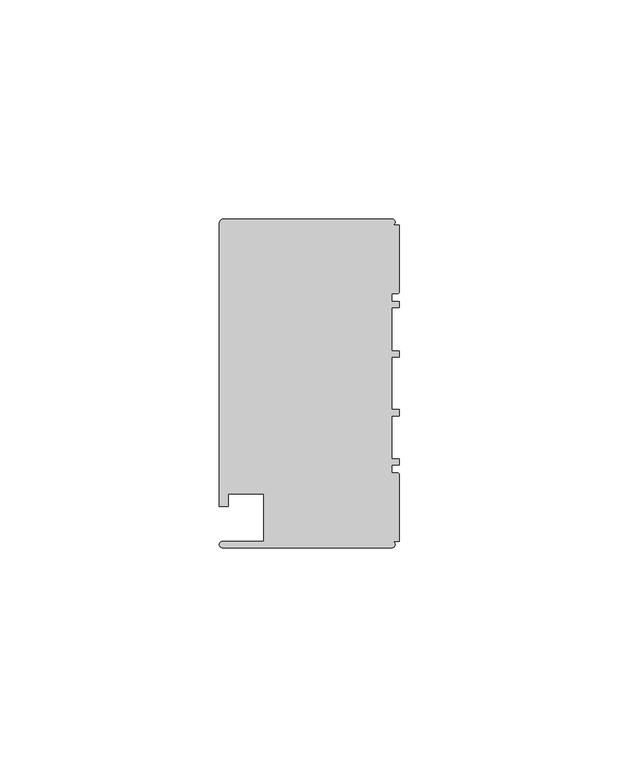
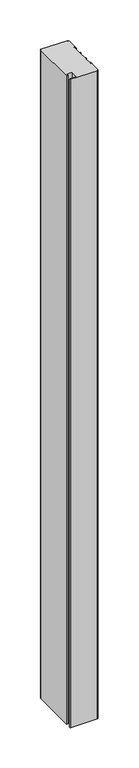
"""IFC4 building model written with IfcOpenShell, lengths in millimetres: member geometry, Прямоугольный импост : 1-AMG-1-Профиль 40Х75 Верх П."""

import ifcopenshell
import ifcopenshell.guid

model = None  # the IFC model being written
_history = None  # IfcOwnerHistory: only IFC2X3 demands one
_inside = {}  # id of a spatial element -> (the spatial element, [elements in it])
_under = {}  # id of a project, library or spatial element -> (it, [spatial elements below it])
_declared = {}  # id of a project -> (the project, [libraries it declares])
_typed = {}  # id of a type object -> (the type object, [elements of that type])
_made_of = {}  # id of a material, layer set ... -> (it, [elements and type objects made of it])


def new_model(schema):
    """Start an empty IFC model of exactly this schema.

    Asked for "IFC4X3", IfcOpenShell would pick the latest addendum, in which some entities
    have other attributes; the version numbers below select the first issue.
    IFC2X3 requires an IfcOwnerHistory on every rooted entity: one is made here for all.
    """
    global model, _history
    if schema == "IFC4X3":
        model = ifcopenshell.file(schema_version=(4, 3, 0, 0))
    else:
        model = ifcopenshell.file(schema=schema)
    _inside.clear()
    _under.clear()
    _declared.clear()
    _typed.clear()
    _made_of.clear()
    _history = None
    if model.schema == "IFC2X3":
        org = make("IfcOrganization", Name="unknown")
        user = make(
            "IfcPersonAndOrganization",
            ThePerson=make("IfcPerson", FamilyName="unknown"),
            TheOrganization=org,
        )
        app = make(
            "IfcApplication",
            ApplicationDeveloper=org,
            Version="unknown",
            ApplicationFullName="unknown",
            ApplicationIdentifier="unknown",
        )
        _history = make(
            "IfcOwnerHistory",
            OwningUser=user,
            OwningApplication=app,
            ChangeAction="ADDED",
            CreationDate=0,
        )
    return model


def make(cls, **values):
    """One entity of the class cls with the attributes given. An attribute that is None is left unset."""
    return model.create_entity(
        cls, **{name: value for name, value in values.items() if value is not None}
    )


def rooted(cls, **values):
    """An entity with a GlobalId (a new one), such as an element, a storey or a relation."""
    return make(cls, GlobalId=ifcopenshell.guid.new(), OwnerHistory=_history, **values)


def si_unit(unit_type, name, prefix=None):
    """IfcSIUnit, for example si_unit("LENGTHUNIT", "METRE", prefix="MILLI")."""
    return make("IfcSIUnit", UnitType=unit_type, Prefix=prefix, Name=name)


def assignment(units):
    """IfcUnitAssignment: the units of a project."""
    return None if units is None else make("IfcUnitAssignment", Units=units)


def point(xyz):
    """IfcCartesianPoint."""
    return None if xyz is None else make("IfcCartesianPoint", Coordinates=xyz)


def direction(xyz):
    """IfcDirection."""
    return None if xyz is None else make("IfcDirection", DirectionRatios=xyz)


def frame(location, z_axis=None, x_axis=None):
    """IfcAxis2Placement3D, a coordinate frame: its origin and axes. An axis left out is left unset."""
    return make(
        "IfcAxis2Placement3D",
        Location=point(location),
        Axis=direction(z_axis),
        RefDirection=direction(x_axis),
    )


def frame_2d(location, x_axis=None):
    """IfcAxis2Placement2D, a coordinate frame in the plane: its origin and x axis."""
    return make(
        "IfcAxis2Placement2D", Location=point(location), RefDirection=direction(x_axis)
    )


def origin():
    """The frame at (0, 0, 0) with its axes left unset."""
    return frame((0.0, 0.0, 0.0))


def place(relative_to, where):
    """IfcLocalPlacement: puts the frame where relative to a parent placement (None: the world)."""
    return make(
        "IfcLocalPlacement", PlacementRelTo=relative_to, RelativePlacement=where
    )


def context(
    kind, dimensions, precision=None, world=None, true_north=None, identifier=None
):
    """IfcGeometricRepresentationContext, for example the 3D "Model" context."""
    return make(
        "IfcGeometricRepresentationContext",
        ContextIdentifier=identifier,
        ContextType=kind,
        CoordinateSpaceDimension=dimensions,
        Precision=precision,
        WorldCoordinateSystem=world,
        TrueNorth=true_north,
    )


def project(units=None, contexts=None):
    """IfcProject with its units and contexts."""
    return rooted(
        "IfcProject",
        Name="project",
        RepresentationContexts=contexts,
        UnitsInContext=assignment(units),
    )


def spatial(cls, under=None, at=None, **own):
    """A site, building, storey or space (cls), placed at a placement, below another one or the project."""
    s = rooted(cls, ObjectPlacement=at, **own)
    if under is not None:
        _under.setdefault(under.id(), (under, []))[1].append(s)
    return s


def polyline(points):
    """IfcPolyline through the points."""
    return make("IfcPolyline", Points=[point(p) for p in points])


def circle_curve(where, radius):
    """IfcCircle in the frame where."""
    return make("IfcCircle", Position=where, Radius=radius)


def trimmed(basis, trim1, trim2, sense, master):
    """IfcTrimmedCurve: the piece of a basis curve between two trims."""
    return make(
        "IfcTrimmedCurve",
        BasisCurve=basis,
        Trim1=trim1,
        Trim2=trim2,
        SenseAgreement=sense,
        MasterRepresentation=master,
    )


def segment(curve, same_sense, transition):
    """IfcCompositeCurveSegment."""
    return make(
        "IfcCompositeCurveSegment",
        Transition=transition,
        SameSense=same_sense,
        ParentCurve=curve,
    )


def composite_curve(segments, self_intersect=None):
    """IfcCompositeCurve: segments joined end to end."""
    return make("IfcCompositeCurve", Segments=segments, SelfIntersect=self_intersect)


def outline(outer, holes=None, kind="AREA"):
    """IfcArbitraryClosedProfileDef: a profile drawn as a closed curve; with holes, ...WithVoids."""
    if holes is None:
        return make("IfcArbitraryClosedProfileDef", ProfileType=kind, OuterCurve=outer)
    return make(
        "IfcArbitraryProfileDefWithVoids",
        ProfileType=kind,
        OuterCurve=outer,
        InnerCurves=holes,
    )


def extrude(swept, where, along, depth):
    """IfcExtrudedAreaSolid: the profile swept, set in the frame where, extruded along a direction by depth."""
    return make(
        "IfcExtrudedAreaSolid",
        SweptArea=swept,
        Position=where,
        ExtrudedDirection=direction(along),
        Depth=depth,
    )


def shape(context_of_items, identifier, shape_type, items):
    """IfcShapeRepresentation: the items that make up one representation, for example the "Body"."""
    return make(
        "IfcShapeRepresentation",
        ContextOfItems=context_of_items,
        RepresentationIdentifier=identifier,
        RepresentationType=shape_type,
        Items=items,
    )


def source(mapping_origin, context_of_items, identifier, shape_type, items):
    """IfcRepresentationMap: a shape defined once, which mapped items show again and again."""
    return make(
        "IfcRepresentationMap",
        MappingOrigin=mapping_origin,
        MappedRepresentation=shape(context_of_items, identifier, shape_type, items),
    )


def transform(
    local_origin,
    x_axis=None,
    y_axis=None,
    z_axis=None,
    scale=None,
    scale2=None,
    scale3=None,
    uniform=True,
):
    """IfcCartesianTransformationOperator3D, or its non-uniform kind. x_axis, y_axis, z_axis: its Axis1, 2, 3."""
    if uniform:
        return make(
            "IfcCartesianTransformationOperator3D",
            Axis1=direction(x_axis),
            Axis2=direction(y_axis),
            LocalOrigin=point(local_origin),
            Scale=scale,
            Axis3=direction(z_axis),
        )
    return make(
        "IfcCartesianTransformationOperator3DnonUniform",
        Axis1=direction(x_axis),
        Axis2=direction(y_axis),
        LocalOrigin=point(local_origin),
        Scale=scale,
        Axis3=direction(z_axis),
        Scale2=scale2,
        Scale3=scale3,
    )


def mapped(mapping_source, mapping_target):
    """IfcMappedItem: shows the shape of a source again, moved by a transform."""
    return make(
        "IfcMappedItem", MappingSource=mapping_source, MappingTarget=mapping_target
    )


def made_of(thing, what):
    """Note that an element or type object is made of a material, layer set ...; save() writes the relation."""
    if what is not None:
        _made_of.setdefault(what.id(), (what, []))[1].append(thing)
    return thing


def element(
    cls,
    number,
    at=None,
    inside=None,
    cuts=None,
    type_object=None,
    material=None,
    context=None,
    identifier="Body",
    shape_type=None,
    held_by="IfcProductDefinitionShape",
    body=None,
    shapes=None,
    **own,
):
    """One element of the class cls, such as IfcWall. Its Tag is "e" and its number.

    at: its placement. inside: the storey or other place that contains it. cuts: it is an
    opening in that element (IfcRelVoidsElement). A single representation is given by context,
    identifier, shape_type and body (its items); several are given by shapes. held_by: the class
    of the entity that holds the representations. save() writes the other relations.
    """
    e = rooted(cls, Tag="e%d" % number, ObjectPlacement=at, **own)
    if body is not None:
        shapes = [shape(context, identifier, shape_type, body)]
    if shapes is not None:
        e.Representation = make(held_by, Representations=shapes)
    if inside is not None:
        _inside.setdefault(inside.id(), (inside, []))[1].append(e)
    if cuts is not None:
        rooted(
            "IfcRelVoidsElement", RelatingBuildingElement=cuts, RelatedOpeningElement=e
        )
    if type_object is not None:
        _typed.setdefault(type_object.id(), (type_object, []))[1].append(e)
    return made_of(e, material)


def aggregate(whole, parts):
    """IfcRelAggregates: a whole, such as a stair, and the parts it consists of."""
    return rooted("IfcRelAggregates", RelatingObject=whole, RelatedObjects=parts)


def save(model, path):
    """Write the relations noted so far, then the file.

    IfcRelAggregates (storeys below a building ...), IfcRelContainedInSpatialStructure (elements
    in a storey), IfcRelDefinesByType, IfcRelAssociatesMaterial and IfcRelDeclares: one each for
    every whole, place, type object, material and project.
    """
    for whole, parts in _under.values():
        aggregate(whole, parts)
    for where, things in _inside.values():
        rooted(
            "IfcRelContainedInSpatialStructure",
            RelatedElements=things,
            RelatingStructure=where,
        )
    for kind, things in _typed.values():
        rooted("IfcRelDefinesByType", RelatedObjects=things, RelatingType=kind)
    for what, things in _made_of.values():
        rooted("IfcRelAssociatesMaterial", RelatedObjects=things, RelatingMaterial=what)
    for by, libraries in _declared.values():
        rooted("IfcRelDeclares", RelatingContext=by, RelatedDefinitions=libraries)
    model.write(path)


def member_8a6799ee(model_context):
    return source(origin(), model_context, "Body", "SweptSolid", [
        extrude(outline(composite_curve([segment(polyline([(-1.7, -37.5), (-40.4, -37.5)]), True, "CONTINUOUS"), segment(trimmed(circle_curve(frame_2d((-40.4, -36.8)), 0.7), [point((-40.4, -37.5))], [point((-40.4, -36.1))], False, "CARTESIAN"), True, "CONTINUOUS"), segment(polyline([(-40.4, -36.1), (-31.0, -36.1), (-31.0, -25.25), (-39.0, -25.25), (-39.0, -28.1), (-41.1, -28.1), (-41.1, 36.1)]), True, "CONTINUOUS"), segment(trimmed(circle_curve(frame_2d((-39.7541527, 36.3020763)), 1.3609334), [point((-41.1, 36.1))], [point((-40.4, 37.5))], False, "CARTESIAN"), True, "CONTINUOUS"), segment(polyline([(-40.4, 37.5), (-1.7, 37.5)]), True, "CONTINUOUS"), segment(trimmed(circle_curve(frame_2d((-1.7, 36.8)), 0.7), [point((-1.7, 37.5))], [point((-1.7, 36.1))], False, "CARTESIAN"), True, "CONTINUOUS"), segment(polyline([(-1.7, 36.1), (0.0, 36.1), (0.0, 20.95)]), True, "CONTINUOUS"), segment(trimmed(circle_curve(frame_2d((-0.5, 20.95)), 0.5), [point((0.0, 20.95))], [point((-0.5, 20.45))], False, "CARTESIAN"), True, "CONTINUOUS"), segment(polyline([(-0.5, 20.45), (-1.8, 20.45), (-1.8, 18.65), (0.0, 18.65), (0.0, 17.25), (-1.8, 17.25), (-1.8, 7.4), (0.0, 7.4), (0.0, 6.0), (-1.8, 6.0), (-1.8, -6.0), (0.0, -6.0), (0.0, -7.4), (-1.8, -7.4), (-1.8, -17.25), (0.0, -17.25), (0.0, -18.65), (-1.8, -18.65), (-1.8, -20.45), (-0.5, -20.45)]), True, "CONTINUOUS"), segment(trimmed(circle_curve(frame_2d((-0.5, -20.95)), 0.5), [point((-0.5, -20.45))], [point((0.0, -20.95))], False, "CARTESIAN"), True, "CONTINUOUS"), segment(polyline([(0.0, -20.95), (0.0, -36.1), (-1.7, -36.1)]), True, "CONTINUOUS"), segment(trimmed(circle_curve(frame_2d((-1.7, -36.8)), 0.7), [point((-1.7, -36.1))], [point((-1.7, -37.5))], False, "CARTESIAN"), True, "CONTINUOUS")], self_intersect=False)), frame((0.0, 0.0, -984.8455724), z_axis=(0.0, 0.0, 1.0), x_axis=(1.0, 0.0, 0.0)), (0.0, 0.0, 1.0), 984.8455724),
    ])


if __name__ == "__main__":
    model = new_model("IFC4")
    model_context = context("Model", 3, world=origin())
    ifc_project = project(units=[si_unit("LENGTHUNIT", "METRE", prefix="MILLI")], contexts=[model_context])
    site = spatial("IfcSite", under=ifc_project)
    building = spatial("IfcBuilding", under=site)
    placement = place(None, origin())
    member_shape = member_8a6799ee(model_context)
    element("IfcMember", 1, ObjectType="Прямоугольный импост : 1-AMG-1-Профиль 40Х75 Верх П", at=placement, inside=building, context=model_context, shape_type="MappedRepresentation", body=[
        mapped(member_shape, transform((0.0, 0.0, 0.0), x_axis=(1.0, 0.0, 0.0), y_axis=(0.0, 1.0, 0.0), z_axis=(0.0, 0.0, 1.0))),
    ])
    save(model, "model.ifc")
